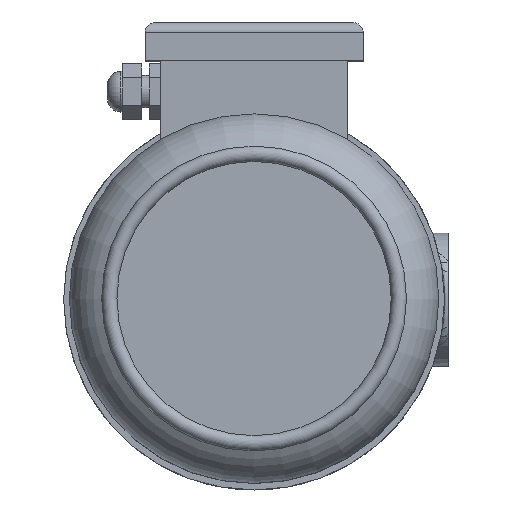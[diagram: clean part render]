
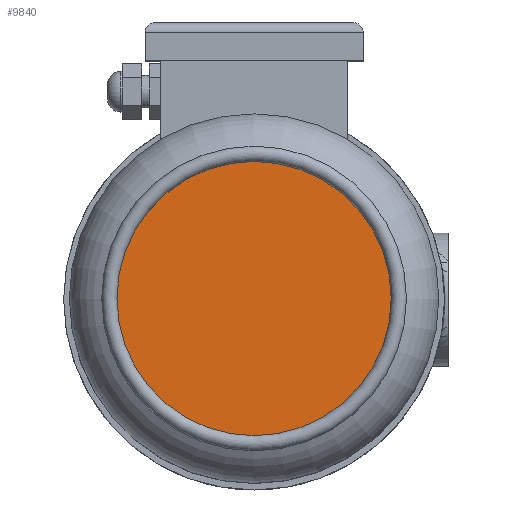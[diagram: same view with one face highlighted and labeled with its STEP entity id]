
A CAD part, top view. The second image highlights one B-rep face of the part: STEP entity #9840.
In plain terms, the highlighted planar face has unit normal (0, 0, 1).
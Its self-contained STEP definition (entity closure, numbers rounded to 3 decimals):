
#1187=CIRCLE('',#10907,72.);
#3970=ORIENTED_EDGE('',*,*,#5472,.F.);
#5472=EDGE_CURVE('',#6465,#6465,#1187,.T.);
#6465=VERTEX_POINT('',#20330);
#8421=EDGE_LOOP('',(#3970));
#9083=FACE_BOUND('',#8421,.T.);
#9285=PLANE('',#10906);
#9840=ADVANCED_FACE('',(#9083),#9285,.T.);
#10906=AXIS2_PLACEMENT_3D('',#20328,#13608,#13609);
#10907=AXIS2_PLACEMENT_3D('',#20329,#13610,#13611);
#13608=DIRECTION('',(0.,0.,1.));
#13609=DIRECTION('',(1.,0.,0.));
#13610=DIRECTION('',(0.,0.,-1.));
#13611=DIRECTION('',(-1.,0.,0.));
#20328=CARTESIAN_POINT('',(-72.,0.,632.64));
#20329=CARTESIAN_POINT('',(0.,0.,632.64));
#20330=CARTESIAN_POINT('',(-72.,0.,632.64));
